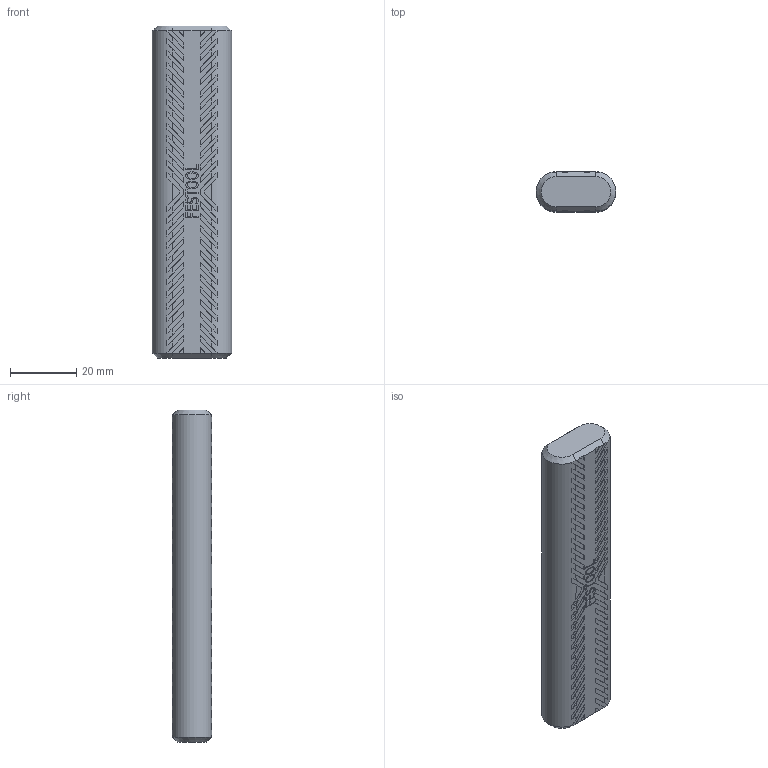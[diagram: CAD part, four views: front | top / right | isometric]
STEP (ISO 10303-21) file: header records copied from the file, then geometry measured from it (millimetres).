
FILE_DESCRIPTION(('Creo Elements/Direct Modeling STEP Export'),'2;1');
FILE_NAME('Domino_12x100.stp','2024-01-19T 8:04:01',(''),(''),'Creo Elements/Direct Modeling STEP processor for AP214 (Solid Model)','Creo Elements/Direct Modeling 20.5A 14-Oct-2022 (C) Parametric Technology GmbH','');
FILE_SCHEMA(('AUTOMOTIVE_DESIGN { 1 0 10303 214 1 1 1 1 }'));
Length unit declared in the file: millimetre
Products named in the file (1): 12x100_00479331
Bounding box: 23.95 x 12 x 100 mm (x, y, z)
Volume: 25405.7 mm3; surface area: 6928.2 mm2
Topology: 1 solids, 1 shells, 1018 faces, 2970 edges, 1980 vertices
Faces by surface type: plane 1012, cone 4, cylinder 2
Entity records: 31985 total; most frequent: ORIENTED_EDGE 5940, CARTESIAN_POINT 5846, DIRECTION 4770, EDGE_CURVE 2970, VECTOR 2546, LINE 2546, VERTEX_POINT 1980, AXIS2_PLACEMENT_3D 1112
